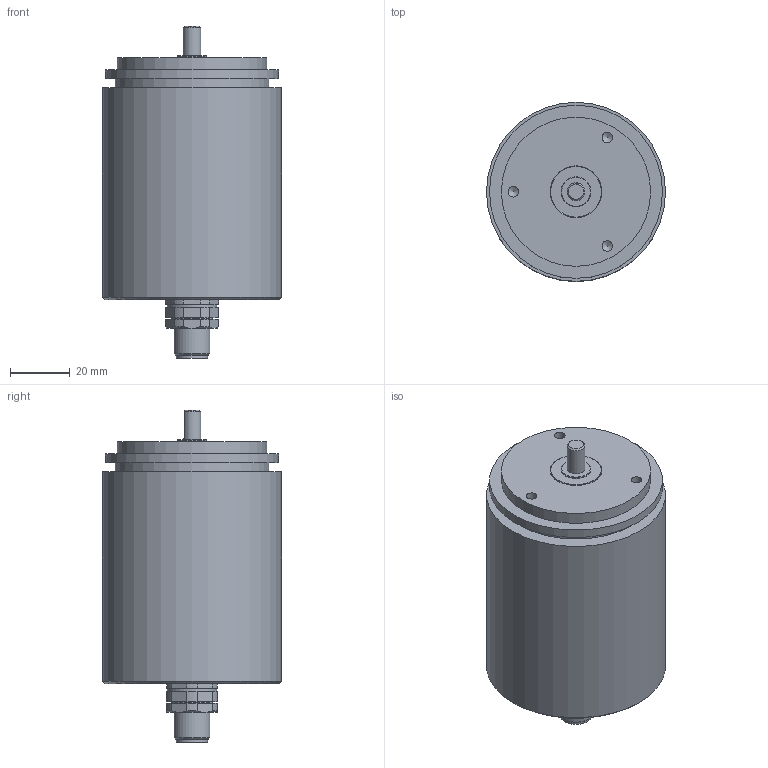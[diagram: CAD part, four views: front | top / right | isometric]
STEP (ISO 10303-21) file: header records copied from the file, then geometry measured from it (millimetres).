
FILE_DESCRIPTION(/* description */ ('Alibre Inc.'),/* implementation_level */ '2;1');
FILE_NAME(/* name */ 'export0',/* time_stamp */ '2016-10-21T14:17:46-04:00',/* author */ (''),/* organization */ (''),/* preprocessor_version */ 'ST-DEVELOPER v14',/* originating_system */ 'Alibre',/* authorisation */ '');
FILE_SCHEMA (('CONFIG_CONTROL_DESIGN'));
Length unit declared in the file: centimetre
Products named in the file (1): ID_1
Bounding box: 60 x 60 x 111.28 mm (x, y, z)
Volume: 137773 mm3; surface area: 39617.6 mm2
Topology: 3 solids, 42 shells, 273 faces, 456 edges, 298 vertices
Faces by surface type: plane 142, cylinder 101, cone 27, bspline 3
Full cylindrical faces by diameter (mm): 1.4 x8, 2.87 x2, 2.92 x1, 3 x35, 3.545 x3, 6 x1, 8.3 x1, 9.9 x2, 10 x3, 10.5 x1, 11.8 x1, 12 x1, 13.5 x2, 14 x1, 15.2 x1, 16.5 x1, 17 x2, 20 x1, 26 x1, 46 x1, 50 x1, 51.5 x1, 55.8 x1, 58 x1, 60 x1
Entity records: 5707 total; most frequent: CARTESIAN_POINT 1058, DIRECTION 924, ORIENTED_EDGE 690, AXIS2_PLACEMENT_3D 468, FACE_BOUND 412, EDGE_LOOP 409, EDGE_CURVE 345, VERTEX_POINT 287
